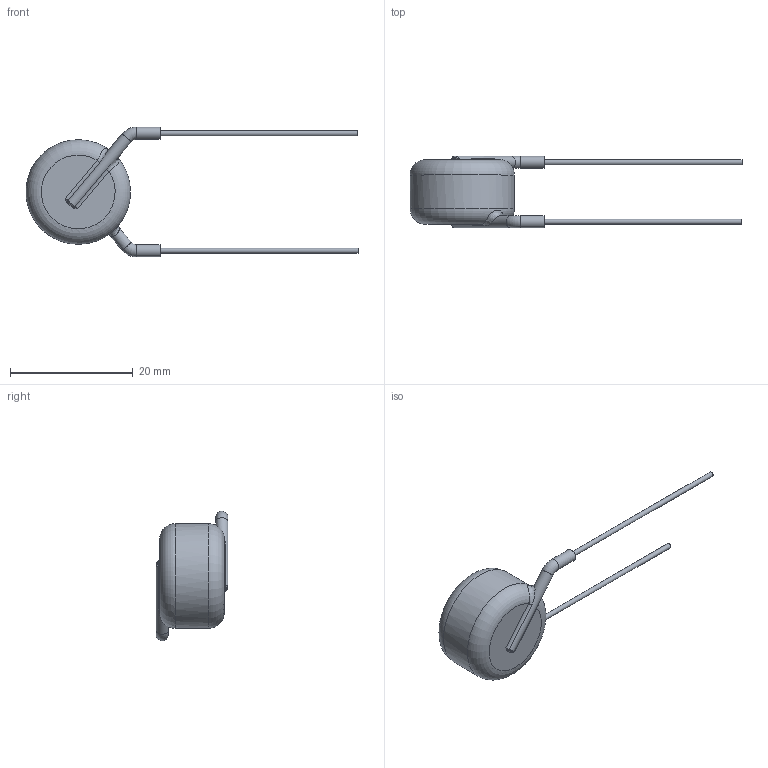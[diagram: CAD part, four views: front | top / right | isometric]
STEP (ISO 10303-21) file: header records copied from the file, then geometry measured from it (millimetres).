
FILE_DESCRIPTION((''),'2;1');
FILE_NAME('I:\Marketing\M6t1\3D-Models\Zchng-Werk-3\Upload for homepage\Ceramite\T3M-15kV\615R150GATT25\615R150GATT25.stp','2015-08-28T10:42:55',(''),(''),'Autodesk Inventor 2013','Autodesk Inventor 2013','');
FILE_SCHEMA(('AUTOMOTIVE_DESIGN { 1 0 10303 214 1 1 1 1 }'));
Length unit declared in the file: centimetre
Products named in the file (1): 615R150GATT25
Bounding box: 54 x 11.68 x 21.08 mm (x, y, z)
Volume: 2363.8 mm3; surface area: 1187.5 mm2
Topology: 1 solids, 1 shells, 42 faces, 94 edges, 52 vertices
Faces by surface type: cylinder 13, torus 11, bspline 10, plane 8
Full cylindrical faces by diameter (mm): 0.81 x2, 1.98 x4, 17 x1
Entity records: 1473 total; most frequent: CARTESIAN_POINT 640, DIRECTION 152, ORIENTED_EDGE 140, AXIS2_PLACEMENT_3D 70, EDGE_CURVE 70, EDGE_LOOP 54, VERTEX_POINT 44, STYLED_ITEM 42
